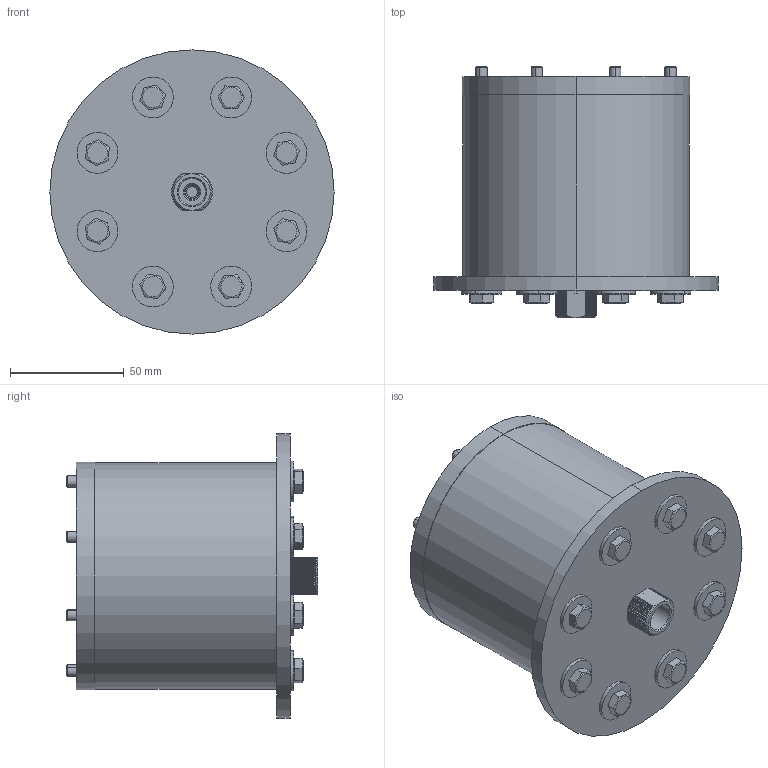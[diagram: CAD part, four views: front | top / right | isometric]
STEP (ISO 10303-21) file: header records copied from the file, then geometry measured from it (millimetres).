
FILE_DESCRIPTION (( 'STEP AP214' ), '1' );
FILE_NAME ('Camera housing.STEP', '2024-05-23T14:06:43', ( '' ), ( '' ), 'SwSTEP 2.0', 'SolidWorks 2023', '' );
FILE_SCHEMA (( 'AUTOMOTIVE_DESIGN' ));
Length unit declared in the file: millimetre
Products named in the file (14): stand alone housing; DIN931 M6x100; PENETRATOR-M-BOLT-6MM-10-25-R2; inmat for camera node; slotted cheese head screw_iso_ISO 1207 - M3 x 5 - 5N; PENETRATOR-M-NUT-10-8-R2; plain washer large grade ac_iso_Washer ISO 7093 - 6; Strudecam21; Camera housing; camera holder; glass clamp; backplate; plain washer 10669 type nl_iso_ISO 10669-3-N; glass
Assembly tree (31 placements, depth 3):
  Camera housing
    stand alone housing
    glass
    glass clamp
    inmat for camera node
      camera holder
      Strudecam21
      slotted cheese head screw_iso_ISO 1207 - M3 x 5 - 5N  x4
      plain washer 10669 type nl_iso_ISO 10669-3-N  x2
    backplate
    PENETRATOR-M-BOLT-6MM-10-25-R2
    PENETRATOR-M-NUT-10-8-R2
    DIN931 M6x100  x8
    plain washer large grade ac_iso_Washer ISO 7093 - 6  x8
Bounding box: 125 x 110.4 x 125 mm (x, y, z)
Volume: 527611.5 mm3; surface area: 173108.5 mm2
Topology: 31 solids, 31 shells, 822 faces, 2075 edges, 1356 vertices
Faces by surface type: cylinder 350, plane 347, cone 79, torus 24, bspline 22
Entity records: 23053 total; most frequent: CARTESIAN_POINT 8398, ORIENTED_EDGE 3106, DIRECTION 2809, EDGE_CURVE 1553, AXIS2_PLACEMENT_3D 1087, VERTEX_POINT 1022, EDGE_LOOP 677, VECTOR 635
